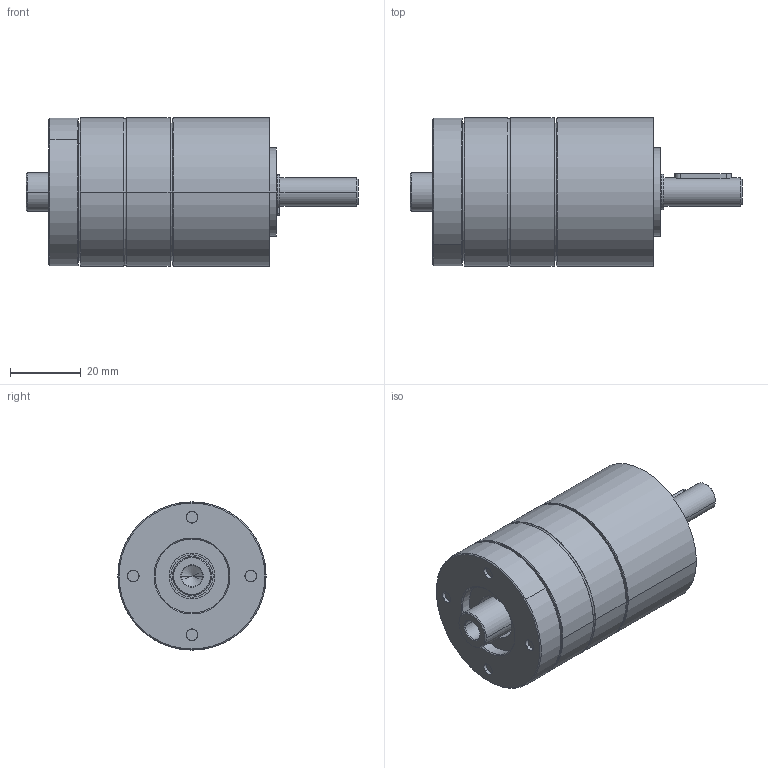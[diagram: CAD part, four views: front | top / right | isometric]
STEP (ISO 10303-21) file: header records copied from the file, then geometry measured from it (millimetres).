
FILE_DESCRIPTION((''),'2;1');
FILE_NAME('IMS42_PRO_2_STAGE_ASM','2024-09-02T13:23:54',('mhummel'),(''),'CREO PARAMETRIC BY PTC INC, 2020184','CREO PARAMETRIC BY PTC INC, 2020184','');
FILE_SCHEMA(('AUTOMOTIVE_DESIGN { 1 0 10303 214 1 1 1 1 }'));
Length unit declared in the file: millimetre
Products named in the file (14): IMS42_PRO_BEARING_FLANGE; IMS42_PRO_BALL_BEARING; IMS42_PRO_RING_GEAR_2_STAGE; IMS42_PRO_MOTOR_FLANGE; IMS42_SHIM_RING; IMS42_PRO_SHAFT_RAW_AF0; IMS42_PRO_SHAFT_ASM; IMS42_PRO_RETAINING_RING_A; IMS42_PRO_FEATHER_KEY; IMS42_PRO_THRUST_WASHER_1_STAGE; IMS42_PRO_SCREW_2_STAGE; IMS42_PRO_PINION_LONG; IMS42_PRO_PINION_SHORT; IMS42_PRO_2_STAGE_ASM
Assembly tree (17 placements, depth 3):
  IMS42_PRO_2_STAGE_ASM
    IMS42_PRO_BEARING_FLANGE
    IMS42_PRO_BALL_BEARING  x2
    IMS42_PRO_RING_GEAR_2_STAGE
    IMS42_PRO_MOTOR_FLANGE
    IMS42_SHIM_RING
    IMS42_PRO_SHAFT_ASM
      IMS42_PRO_SHAFT_RAW_AF0
    IMS42_PRO_RETAINING_RING_A
    IMS42_PRO_FEATHER_KEY
    IMS42_PRO_THRUST_WASHER_1_STAGE
    IMS42_PRO_SCREW_2_STAGE  x4
    IMS42_PRO_PINION_LONG
    IMS42_PRO_PINION_SHORT
Bounding box: 94.05 x 42 x 42 mm (x, y, z)
Volume: 67557.8 mm3; surface area: 38581.2 mm2
Topology: 20 solids, 22 shells, 424 faces, 909 edges, 538 vertices
Faces by surface type: cylinder 164, cone 106, plane 98, torus 56
Entity records: 12566 total; most frequent: DIRECTION 1841, CARTESIAN_POINT 1569, ORIENTED_EDGE 1406, AXIS2_PLACEMENT_3D 776, PRESENTATION_STYLE_ASSIGNMENT 763, STYLED_ITEM 744, CURVE_STYLE 703, EDGE_CURVE 703
